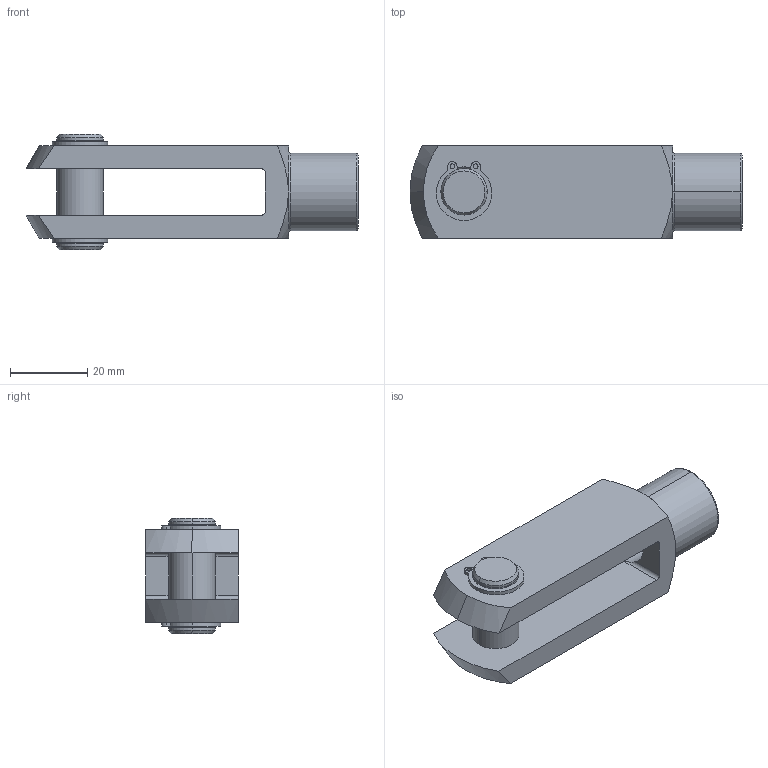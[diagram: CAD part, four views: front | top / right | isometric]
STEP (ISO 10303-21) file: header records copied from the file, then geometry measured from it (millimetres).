
FILE_DESCRIPTION (( 'STEP AP203' ), '1' );
FILE_NAME ('65616.W0125.step', '2014-01-18T10:32:56', ( 'User' ), ( '' ), 'SwSTEP 2.0', 'SolidWorks 2009', '' );
FILE_SCHEMA (( 'CONFIG_CONTROL_DESIGN' ));
Length unit declared in the file: millimetre
Products named in the file (4): 65616.W0125; Part1_65636.W0125; Part2_65666.W0012; Part3_65678.W0012
Assembly tree (4 placements, depth 2):
  65616.W0125
    Part3_65678.W0012  x2
    Part2_65666.W0012
    Part1_65636.W0125
Bounding box: 86 x 24 x 30 mm (x, y, z)
Volume: 25407.2 mm3; surface area: 12220.7 mm2
Topology: 4 solids, 4 shells, 95 faces, 227 edges, 144 vertices
Faces by surface type: cylinder 46, plane 28, cone 17, torus 4
Entity records: 2767 total; most frequent: CARTESIAN_POINT 499, DIRECTION 423, ORIENTED_EDGE 358, EDGE_CURVE 179, AXIS2_PLACEMENT_3D 176, VERTEX_POINT 112, CIRCLE 92, EDGE_LOOP 91
